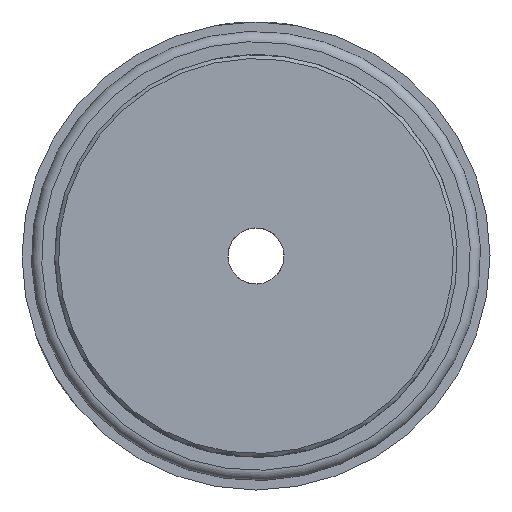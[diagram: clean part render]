
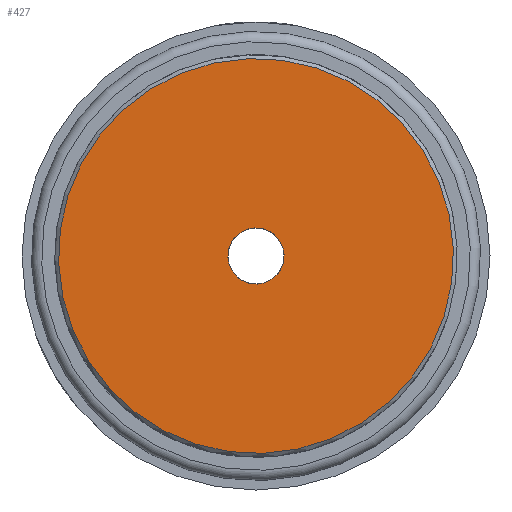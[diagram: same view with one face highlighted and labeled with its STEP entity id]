
A CAD part, left-side view. The second image highlights one B-rep face of the part: STEP entity #427.
In plain terms, the highlighted planar face has unit normal (-1, 0, 0).
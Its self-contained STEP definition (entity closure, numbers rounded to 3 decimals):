
#427 = ADVANCED_FACE( 'NONE', ( #957, #958 ), #959, .F. );
#957 = FACE_OUTER_BOUND( '', #1633, .T. );
#958 = FACE_BOUND( '', #1634, .T. );
#959 = PLANE( '', #1635 );
#1633 = EDGE_LOOP( '', ( #2567 ) );
#1634 = EDGE_LOOP( '', ( #2568 ) );
#1635 = AXIS2_PLACEMENT_3D( '', #2569, #2570, #2571 );
#2567 = ORIENTED_EDGE( '', *, *, #3521, .T. );
#2568 = ORIENTED_EDGE( '', *, *, #3324, .F. );
#2569 = CARTESIAN_POINT( '', ( 0., 1.5, 0. ) );
#2570 = DIRECTION( '', ( 1., 0., 0. ) );
#2571 = DIRECTION( '', ( 0., 1., 0. ) );
#3324 = EDGE_CURVE( 'NONE', #3819, #3819, #3820, .T. );
#3521 = EDGE_CURVE( 'NONE', #4154, #4154, #4155, .T. );
#3819 = VERTEX_POINT( '', #4513 );
#3820 = CIRCLE( '', #4514, 1.5 );
#4154 = VERTEX_POINT( '', #5042 );
#4155 = CIRCLE( '', #5043, 10.55 );
#4513 = CARTESIAN_POINT( '', ( 0., 0., 1.5 ) );
#4514 = AXIS2_PLACEMENT_3D( '', #5651, #5652, #5653 );
#5042 = CARTESIAN_POINT( '', ( 0., 0., -10.55 ) );
#5043 = AXIS2_PLACEMENT_3D( '', #6036, #6037, #6038 );
#5651 = CARTESIAN_POINT( '', ( 0., 0., 0. ) );
#5652 = DIRECTION( '', ( -1., 0., 0. ) );
#5653 = DIRECTION( '', ( 0., 0., 1. ) );
#6036 = CARTESIAN_POINT( '', ( 0., 0., 0. ) );
#6037 = DIRECTION( '', ( -1., 0., 0. ) );
#6038 = DIRECTION( '', ( 0., 0., -1. ) );
